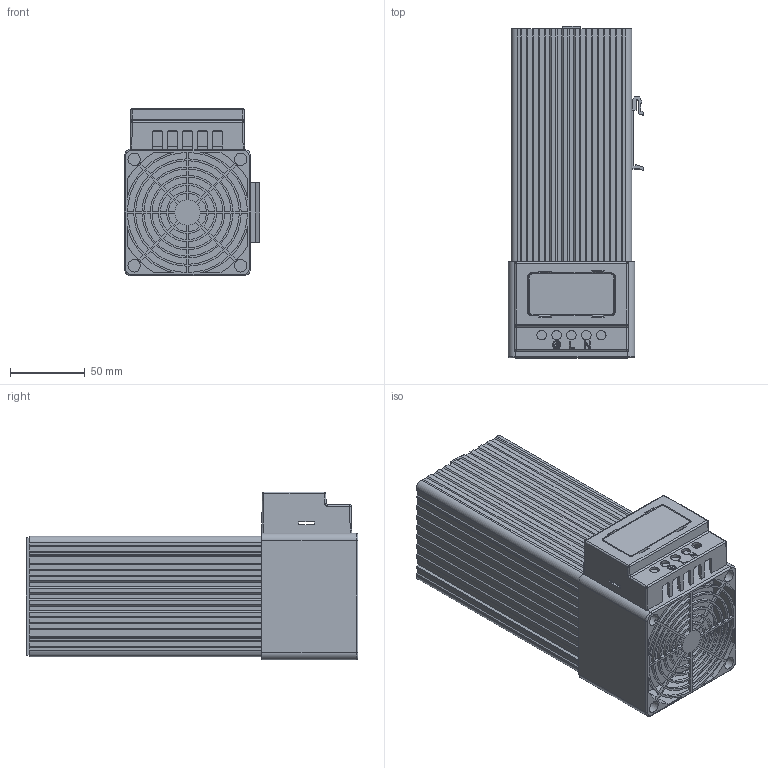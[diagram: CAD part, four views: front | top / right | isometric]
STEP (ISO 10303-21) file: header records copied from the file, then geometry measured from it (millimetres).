
FILE_DESCRIPTION(/* description */ (''),/* implementation_level */ '2;1');
FILE_NAME(/* name */ '5.stp',/* time_stamp */ '2023-02-09T14:21:53+08:00',/* author */ (''),/* organization */ (''),/* preprocessor_version */ 'ST-DEVELOPER v16.7',/* originating_system */ 'SIEMENS PLM Software NX 12.0',/* authorisation */ '');
FILE_SCHEMA (('AUTOMOTIVE_DESIGN { 1 0 10303 214 3 1 1 1 }'));
Length unit declared in the file: millimetre
Products named in the file (1): Admi8D608E5Fsupw
Bounding box: 91.1 x 222.5 x 112.5 mm (x, y, z)
Volume: 629257.1 mm3; surface area: 338927.2 mm2
Topology: 6 solids, 6 shells, 1152 faces, 3330 edges, 2179 vertices
Faces by surface type: plane 779, cylinder 296, bspline 36, cone 28, sphere 8, torus 5
Full cylindrical faces by diameter (mm): 5 x1, 7 x1, 8.3 x4
Entity records: 38318 total; most frequent: CARTESIAN_POINT 7428, ORIENTED_EDGE 6610, DIRECTION 6118, EDGE_CURVE 3305, LINE 2592, VECTOR 2592, VERTEX_POINT 2177, AXIS2_PLACEMENT_3D 1763
